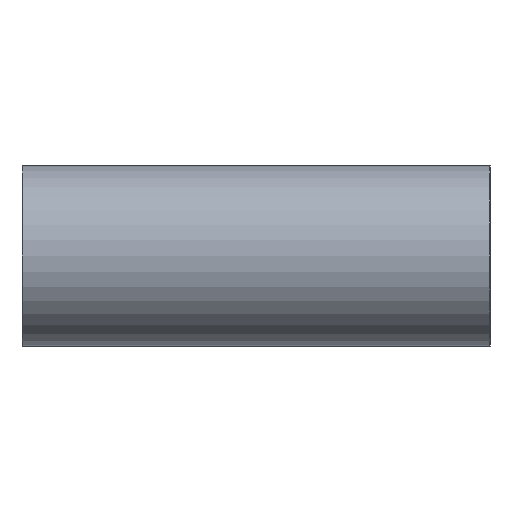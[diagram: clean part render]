
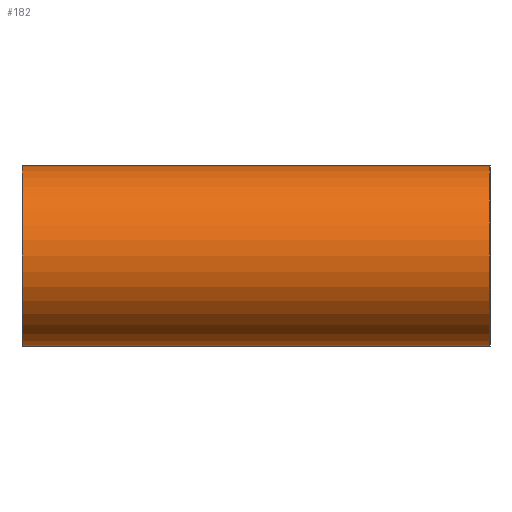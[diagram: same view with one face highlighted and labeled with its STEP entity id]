
A CAD part, front view. The second image highlights one B-rep face of the part: STEP entity #182.
In plain terms, the highlighted cylindrical face has radius 29 mm (diameter 58 mm), a partial arc.
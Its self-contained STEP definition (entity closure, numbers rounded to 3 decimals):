
#28 = ORIENTED_EDGE ( 'NONE', *, *, #951, .T. ) ;
#57 = VERTEX_POINT ( 'NONE', #310 ) ;
#91 = DIRECTION ( 'NONE',  ( 1., 0., 0. ) ) ;
#182 = ADVANCED_FACE ( 'NONE', ( #2439 ), #2453, .T. ) ;
#211 = CARTESIAN_POINT ( 'NONE',  ( -149.85, 0., 29. ) ) ;
#222 = DIRECTION ( 'NONE',  ( 0., 0., -1. ) ) ;
#310 = CARTESIAN_POINT ( 'NONE',  ( -149.85, 0., -29. ) ) ;
#325 = CARTESIAN_POINT ( 'NONE',  ( -76.2, 0., 0. ) ) ;
#415 = EDGE_CURVE ( 'NONE', #2181, #57, #885, .T. ) ;
#416 = EDGE_LOOP ( 'NONE', ( #729, #1272, #28, #2308 ) ) ;
#469 = CIRCLE ( 'NONE', #1805, 29. ) ;
#729 = ORIENTED_EDGE ( 'NONE', *, *, #1610, .F. ) ;
#741 = VECTOR ( 'NONE', #970, 1000. ) ;
#787 = CARTESIAN_POINT ( 'NONE',  ( -76.2, 0., 29. ) ) ;
#885 = CIRCLE ( 'NONE', #2170, 29. ) ;
#951 = EDGE_CURVE ( 'NONE', #1228, #2181, #2148, .T. ) ;
#970 = DIRECTION ( 'NONE',  ( -1., 0., 0. ) ) ;
#1029 = LINE ( 'NONE', #1781, #2577 ) ;
#1078 = DIRECTION ( 'NONE',  ( -1., 0., 0. ) ) ;
#1185 = VERTEX_POINT ( 'NONE', #1865 ) ;
#1228 = VERTEX_POINT ( 'NONE', #2306 ) ;
#1272 = ORIENTED_EDGE ( 'NONE', *, *, #2683, .T. ) ;
#1320 = DIRECTION ( 'NONE',  ( 0., 0., 1. ) ) ;
#1610 = EDGE_CURVE ( 'NONE', #1185, #57, #1029, .T. ) ;
#1747 = DIRECTION ( 'NONE',  ( -1., 0., 0. ) ) ;
#1781 = CARTESIAN_POINT ( 'NONE',  ( -76.2, 0., -29. ) ) ;
#1805 = AXIS2_PLACEMENT_3D ( 'NONE', #2844, #2816, #222 ) ;
#1865 = CARTESIAN_POINT ( 'NONE',  ( -0.15, 0., -29. ) ) ;
#2148 = LINE ( 'NONE', #787, #741 ) ;
#2167 = AXIS2_PLACEMENT_3D ( 'NONE', #325, #1747, #2234 ) ;
#2170 = AXIS2_PLACEMENT_3D ( 'NONE', #2283, #91, #1320 ) ;
#2181 = VERTEX_POINT ( 'NONE', #211 ) ;
#2234 = DIRECTION ( 'NONE',  ( 0., 0., 1. ) ) ;
#2283 = CARTESIAN_POINT ( 'NONE',  ( -149.85, 0., 0. ) ) ;
#2306 = CARTESIAN_POINT ( 'NONE',  ( -0.15, 0., 29. ) ) ;
#2308 = ORIENTED_EDGE ( 'NONE', *, *, #415, .T. ) ;
#2439 = FACE_OUTER_BOUND ( 'NONE', #416, .T. ) ;
#2453 = CYLINDRICAL_SURFACE ( 'NONE', #2167, 29. ) ;
#2577 = VECTOR ( 'NONE', #1078, 1000. ) ;
#2683 = EDGE_CURVE ( 'NONE', #1185, #1228, #469, .T. ) ;
#2816 = DIRECTION ( 'NONE',  ( -1., 0., 0. ) ) ;
#2844 = CARTESIAN_POINT ( 'NONE',  ( -0.15, 0., 0. ) ) ;
